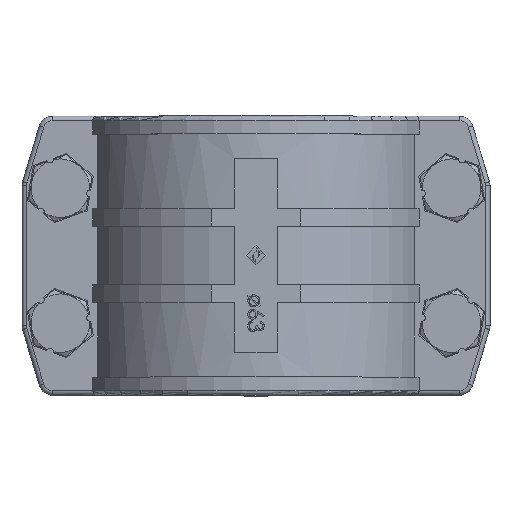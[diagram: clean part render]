
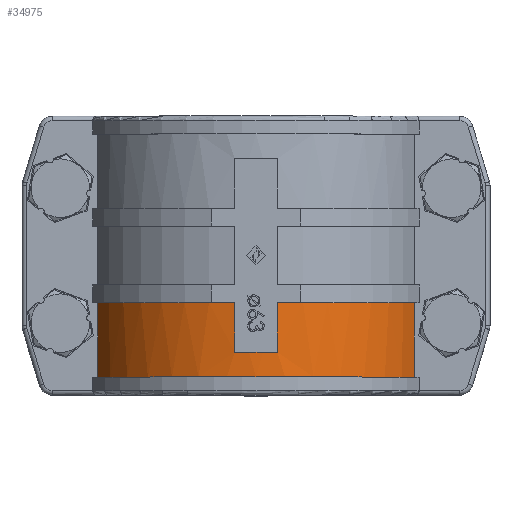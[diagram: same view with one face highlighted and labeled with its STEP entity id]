
A CAD part, top view. The second image highlights one B-rep face of the part: STEP entity #34975.
In plain terms, the highlighted cylindrical face has radius 37.5 mm (diameter 75 mm), a partial arc.
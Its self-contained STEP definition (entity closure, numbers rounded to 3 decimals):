
#401 = CARTESIAN_POINT ( 'NONE',  ( 35.175, -10.5, 13. ) ) ;
#1796 = DIRECTION ( 'NONE',  ( 0., -1., 0. ) ) ;
#2944 = VECTOR ( 'NONE', #1796, 1000. ) ;
#3635 = DIRECTION ( 'NONE',  ( 0., -1., 0. ) ) ;
#3875 = CARTESIAN_POINT ( 'NONE',  ( 0., -21.5, 0. ) ) ;
#7101 = EDGE_CURVE ( 'NONE', #48157, #20751, #46126, .T. ) ;
#7278 = DIRECTION ( 'NONE',  ( -1., 0., 0. ) ) ;
#7393 = AXIS2_PLACEMENT_3D ( 'NONE', #11718, #29762, #7278 ) ;
#7423 = VERTEX_POINT ( 'NONE', #37433 ) ;
#7554 = CARTESIAN_POINT ( 'NONE',  ( 0., -27., 0. ) ) ;
#8899 = DIRECTION ( 'NONE',  ( -1., 0., 0. ) ) ;
#9351 = ORIENTED_EDGE ( 'NONE', *, *, #7101, .T. ) ;
#10501 = DIRECTION ( 'NONE',  ( 0., 1., 0. ) ) ;
#10736 = CIRCLE ( 'NONE', #26780, 37.5 ) ;
#10857 = CARTESIAN_POINT ( 'NONE',  ( 35.175, -27., 13. ) ) ;
#11630 = VERTEX_POINT ( 'NONE', #10857 ) ;
#11718 = CARTESIAN_POINT ( 'NONE',  ( 0., -31., 0. ) ) ;
#12083 = EDGE_LOOP ( 'NONE', ( #24486, #27994, #16450, #46987, #30986, #38422, #18372, #9351 ) ) ;
#12181 = CARTESIAN_POINT ( 'NONE',  ( 0., -10.5, 0. ) ) ;
#14548 = LINE ( 'NONE', #20161, #2944 ) ;
#15237 = CARTESIAN_POINT ( 'NONE',  ( 4.734, -31., 37.2 ) ) ;
#16450 = ORIENTED_EDGE ( 'NONE', *, *, #48972, .F. ) ;
#18372 = ORIENTED_EDGE ( 'NONE', *, *, #58071, .T. ) ;
#18942 = LINE ( 'NONE', #31958, #37976 ) ;
#20161 = CARTESIAN_POINT ( 'NONE',  ( -4.734, -31., 37.2 ) ) ;
#20751 = VERTEX_POINT ( 'NONE', #44791 ) ;
#21944 = DIRECTION ( 'NONE',  ( 0., 1., 0. ) ) ;
#24486 = ORIENTED_EDGE ( 'NONE', *, *, #54730, .F. ) ;
#26322 = AXIS2_PLACEMENT_3D ( 'NONE', #48601, #3635, #26731 ) ;
#26731 = DIRECTION ( 'NONE',  ( -1., 0., 0. ) ) ;
#26780 = AXIS2_PLACEMENT_3D ( 'NONE', #12181, #31103, #8899 ) ;
#26913 = VECTOR ( 'NONE', #57048, 1000. ) ;
#27994 = ORIENTED_EDGE ( 'NONE', *, *, #30997, .F. ) ;
#29588 = LINE ( 'NONE', #56454, #26913 ) ;
#29762 = DIRECTION ( 'NONE',  ( 0., -1., 0. ) ) ;
#30986 = ORIENTED_EDGE ( 'NONE', *, *, #53719, .T. ) ;
#30997 = EDGE_CURVE ( 'NONE', #42873, #36856, #34485, .T. ) ;
#31103 = DIRECTION ( 'NONE',  ( 0., -1., 0. ) ) ;
#31958 = CARTESIAN_POINT ( 'NONE',  ( -35.175, -31., 13. ) ) ;
#32049 = CIRCLE ( 'NONE', #48087, 37.5 ) ;
#33270 = LINE ( 'NONE', #15237, #41812 ) ;
#34181 = CYLINDRICAL_SURFACE ( 'NONE', #7393, 37.5 ) ;
#34485 = CIRCLE ( 'NONE', #38291, 37.5 ) ;
#34975 = ADVANCED_FACE ( 'NONE', ( #46593 ), #34181, .T. ) ;
#36856 = VERTEX_POINT ( 'NONE', #44197 ) ;
#37006 = CARTESIAN_POINT ( 'NONE',  ( -4.734, -10.5, 37.2 ) ) ;
#37433 = CARTESIAN_POINT ( 'NONE',  ( -35.175, -27., 13. ) ) ;
#37737 = CARTESIAN_POINT ( 'NONE',  ( -4.734, -21.5, 37.2 ) ) ;
#37976 = VECTOR ( 'NONE', #49962, 1000. ) ;
#38291 = AXIS2_PLACEMENT_3D ( 'NONE', #3875, #21944, #52396 ) ;
#38422 = ORIENTED_EDGE ( 'NONE', *, *, #46750, .F. ) ;
#40811 = EDGE_CURVE ( 'NONE', #56862, #51103, #10736, .T. ) ;
#41812 = VECTOR ( 'NONE', #10501, 1000. ) ;
#42873 = VERTEX_POINT ( 'NONE', #37737 ) ;
#44197 = CARTESIAN_POINT ( 'NONE',  ( 4.734, -21.5, 37.2 ) ) ;
#44791 = CARTESIAN_POINT ( 'NONE',  ( 4.734, -10.5, 37.2 ) ) ;
#46126 = CIRCLE ( 'NONE', #26322, 37.5 ) ;
#46593 = FACE_OUTER_BOUND ( 'NONE', #12083, .T. ) ;
#46750 = EDGE_CURVE ( 'NONE', #11630, #7423, #32049, .T. ) ;
#46987 = ORIENTED_EDGE ( 'NONE', *, *, #40811, .T. ) ;
#48087 = AXIS2_PLACEMENT_3D ( 'NONE', #7554, #57218, #52754 ) ;
#48157 = VERTEX_POINT ( 'NONE', #401 ) ;
#48601 = CARTESIAN_POINT ( 'NONE',  ( 0., -10.5, 0. ) ) ;
#48972 = EDGE_CURVE ( 'NONE', #56862, #42873, #14548, .T. ) ;
#49962 = DIRECTION ( 'NONE',  ( 0., -1., 0. ) ) ;
#51103 = VERTEX_POINT ( 'NONE', #51631 ) ;
#51631 = CARTESIAN_POINT ( 'NONE',  ( -35.175, -10.5, 13. ) ) ;
#52396 = DIRECTION ( 'NONE',  ( 0., 0., -1. ) ) ;
#52754 = DIRECTION ( 'NONE',  ( -1., 0., 0. ) ) ;
#53719 = EDGE_CURVE ( 'NONE', #51103, #7423, #18942, .T. ) ;
#54730 = EDGE_CURVE ( 'NONE', #36856, #20751, #33270, .T. ) ;
#56454 = CARTESIAN_POINT ( 'NONE',  ( 35.175, -31., 13. ) ) ;
#56862 = VERTEX_POINT ( 'NONE', #37006 ) ;
#57048 = DIRECTION ( 'NONE',  ( 0., 1., 0. ) ) ;
#57218 = DIRECTION ( 'NONE',  ( 0., -1., 0. ) ) ;
#58071 = EDGE_CURVE ( 'NONE', #11630, #48157, #29588, .T. ) ;
